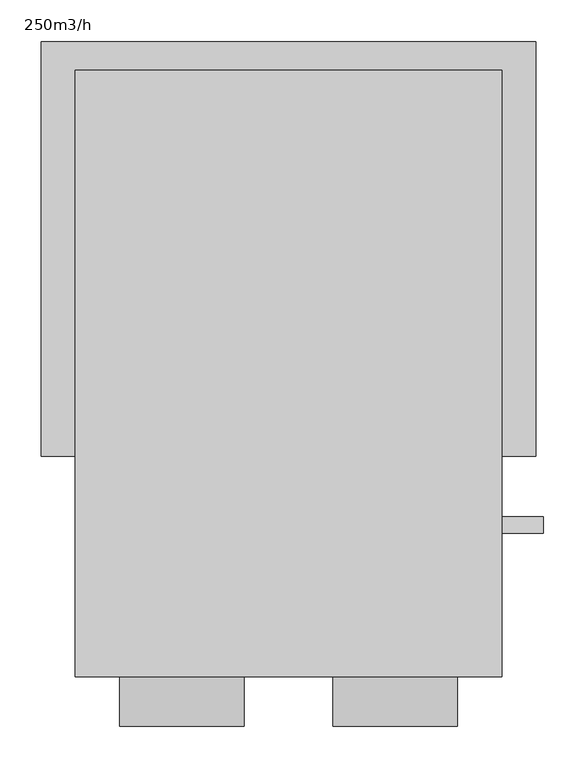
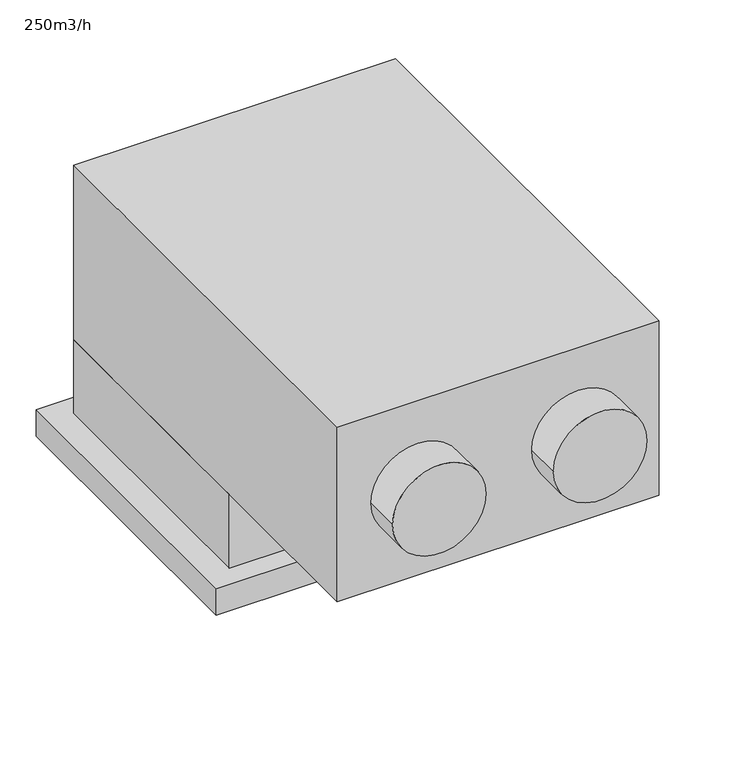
"""IFC4 building model written with IfcOpenShell, lengths in millimetres: unitary equipment geometry, 09040_HEU_全熱交換器_カセット形 : 250m3/h."""

from ifc_helpers import new_model, si_unit, point, frame, frame_2d, origin, origin_with_axes, place, context, project, spatial, polyline, circle_curve, trimmed, segment, composite_curve, outline, extrude, source, transform, mapped, element, save


def unitary_equipment_250m3_h_cb65a487(model_context):
    return source(origin(), model_context, "Body", "SweptSolid", [
        extrude(outline(composite_curve([segment(trimmed(circle_curve(frame_2d((-182.75, 272.5)), 10.0), [point((-192.75, 272.5))], [point((-172.75, 272.5))], False, "CARTESIAN"), True, "CONTINUOUS"), segment(trimmed(circle_curve(frame_2d((-182.75, 272.5)), 10.0), [point((-172.75, 272.5))], [point((-192.75, 272.5))], False, "CARTESIAN"), True, "CONTINUOUS")], self_intersect=False)), frame((257.5, 0.0, 0.0), z_axis=(1.0, 0.0, 0.0), x_axis=(0.0, 1.0, 0.0)), (0.0, 0.0, 1.0), 50.0),
        extrude(outline(composite_curve([segment(trimmed(circle_curve(frame_2d((272.5, 128.75)), 75.0), [point((272.5, 53.75))], [point((272.5, 203.75))], False, "CARTESIAN"), True, "CONTINUOUS"), segment(trimmed(circle_curve(frame_2d((272.5, 128.75)), 75.0), [point((272.5, 203.75))], [point((272.5, 53.75))], False, "CARTESIAN"), True, "CONTINUOUS")], self_intersect=False)), frame((0.0, -425.5, 0.0), z_axis=(0.0, 1.0, 0.0), x_axis=(0.0, 0.0, 1.0)), (0.0, 0.0, 1.0), 60.0),
        extrude(outline(composite_curve([segment(trimmed(circle_curve(frame_2d((272.5, -128.75)), 75.0), [point((272.5, -203.75))], [point((272.5, -53.75))], False, "CARTESIAN"), True, "CONTINUOUS"), segment(trimmed(circle_curve(frame_2d((272.5, -128.75)), 75.0), [point((272.5, -53.75))], [point((272.5, -203.75))], False, "CARTESIAN"), True, "CONTINUOUS")], self_intersect=False)), frame((0.0, -425.5, 0.0), z_axis=(0.0, 1.0, 0.0), x_axis=(0.0, 0.0, 1.0)), (0.0, 0.0, 1.0), 60.0),
        extrude(outline(polyline([(257.5, -365.5), (-257.5, -365.5), (-257.5, 365.5), (257.5, 365.5), (257.5, -365.5)])), frame((0.0, 0.0, 125.0), z_axis=(0.0, 0.0, 1.0), x_axis=(1.0, 0.0, 0.0)), (0.0, 0.0, 1.0), 295.0),
        extrude(outline(polyline([(257.5, -66.0), (-257.5, -66.0), (-257.5, 365.5), (257.5, 365.5), (257.5, -66.0)])), origin_with_axes(), (0.0, 0.0, 1.0), 125.0),
        extrude(outline(polyline([(298.0, -100.0), (-298.0, -100.0), (-298.0, 400.0), (298.0, 400.0), (298.0, -100.0)])), frame((0.0, 0.0, -45.0), z_axis=(0.0, 0.0, 1.0), x_axis=(1.0, 0.0, 0.0)), (0.0, 0.0, 1.0), 45.0),
    ])


if __name__ == "__main__":
    model = new_model("IFC4")
    model_context = context("Model", 3, world=origin())
    ifc_project = project(units=[si_unit("LENGTHUNIT", "METRE", prefix="MILLI")], contexts=[model_context])
    site = spatial("IfcSite", under=ifc_project)
    building = spatial("IfcBuilding", under=site)
    placement = place(None, origin())
    unitary_equipment_250m3_h_shape = unitary_equipment_250m3_h_cb65a487(model_context)
    element("IfcUnitaryEquipment", 1, ObjectType="09040_HEU_全熱交換器_カセット形 : 250m3/h", at=placement, inside=building, context=model_context, shape_type="MappedRepresentation", body=[
        mapped(unitary_equipment_250m3_h_shape, transform((0.0, 0.0, 0.0), x_axis=(1.0, 0.0, 0.0), y_axis=(0.0, 1.0, 0.0), z_axis=(0.0, 0.0, 1.0))),
    ])
    save(model, "model.ifc")
